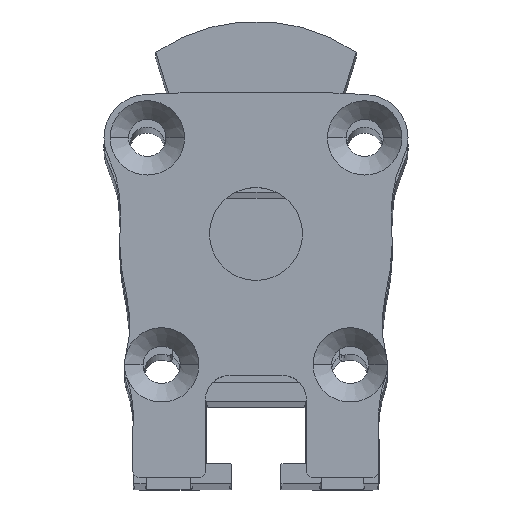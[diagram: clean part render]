
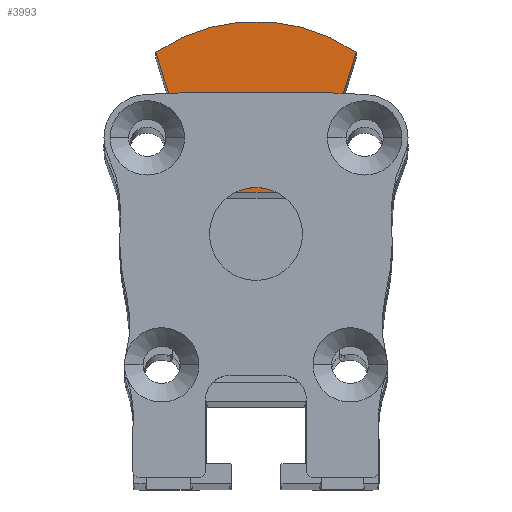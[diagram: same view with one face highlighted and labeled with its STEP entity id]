
A CAD part, top view. The second image highlights one B-rep face of the part: STEP entity #3993.
In plain terms, the highlighted planar face has unit normal (0, 0, 1).
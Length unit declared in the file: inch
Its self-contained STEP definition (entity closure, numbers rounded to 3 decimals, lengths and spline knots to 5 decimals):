
#3993=ADVANCED_FACE('',(#7809),#7810,.T.);
#4001=EDGE_CURVE('',#7813,#7819,#7822,.T.);
#4007=EDGE_CURVE('',#7827,#7819,#7830,.F.);
#4029=EDGE_CURVE('',#7861,#7862,#7863,.F.);
#4035=EDGE_CURVE('',#7869,#7870,#7871,.F.);
#4041=EDGE_CURVE('',#7870,#7861,#7877,.F.);
#4043=EDGE_CURVE('',#7869,#7879,#7880,.F.);
#4047=EDGE_CURVE('',#7813,#7862,#7884,.F.);
#4049=EDGE_CURVE('',#7886,#7887,#7888,.F.);
#4055=EDGE_CURVE('',#7827,#7894,#7895,.F.);
#4059=EDGE_CURVE('',#7894,#7886,#7899,.F.);
#4063=EDGE_CURVE('',#7901,#7887,#7904,.F.);
#4065=EDGE_CURVE('',#7879,#7901,#7906,.F.);
#7809=FACE_OUTER_BOUND('',#17825,.T.);
#7810=PLANE('',#17826);
#7813=VERTEX_POINT('',#17830);
#7819=VERTEX_POINT('',#17840);
#7822=LINE('',#17845,#17846);
#7827=VERTEX_POINT('',#17854);
#7830=LINE('',#17859,#17860);
#7861=VERTEX_POINT('',#17911);
#7862=VERTEX_POINT('',#17912);
#7863=LINE('',#17913,#17914);
#7869=VERTEX_POINT('',#17925);
#7870=VERTEX_POINT('',#17926);
#7871=LINE('',#17927,#17928);
#7877=LINE('',#17939,#17940);
#7879=VERTEX_POINT('',#17943);
#7880=LINE('',#17944,#17945);
#7884=LINE('',#17952,#17953);
#7886=VERTEX_POINT('',#17956);
#7887=VERTEX_POINT('',#17957);
#7888=LINE('',#17958,#17959);
#7894=VERTEX_POINT('',#17970);
#7895=LINE('',#17971,#17972);
#7899=LINE('',#17979,#17980);
#7901=VERTEX_POINT('',#17983);
#7904=LINE('',#17988,#17989);
#7906=CIRCLE('',#17992,0.56299);
#17825=EDGE_LOOP('',(#23534,#23535,#23536,#23537,#23538,#23539,#23540,#23541,#23542,#23543,#23544,#23545));
#17826=AXIS2_PLACEMENT_3D('',#23546,#23547,#23548);
#17830=CARTESIAN_POINT('',(-0.17932,0.15296,-0.32239));
#17840=CARTESIAN_POINT('',(0.17932,0.15296,-0.32239));
#17845=CARTESIAN_POINT('',(0.,0.15296,-0.32239));
#17846=VECTOR('',#23552,1.0);
#17854=CARTESIAN_POINT('',(0.26301,0.4208,-0.32239));
#17859=CARTESIAN_POINT('',(0.19145,0.19179,-0.32239));
#17860=VECTOR('',#23555,1.0);
#17911=CARTESIAN_POINT('',(-0.21005,0.4208,-0.32239));
#17912=CARTESIAN_POINT('',(-0.26301,0.4208,-0.32239));
#17913=CARTESIAN_POINT('',(-0.12298,0.4208,-0.32239));
#17914=VECTOR('',#23568,1.0);
#17925=CARTESIAN_POINT('',(-0.27532,0.46017,-0.32239));
#17926=CARTESIAN_POINT('',(-0.21005,0.46017,-0.32239));
#17927=CARTESIAN_POINT('',(-0.12298,0.46017,-0.32239));
#17928=VECTOR('',#23571,1.0);
#17939=CARTESIAN_POINT('',(-0.21005,0.35333,-0.32239));
#17940=VECTOR('',#23574,1.0);
#17943=CARTESIAN_POINT('',(-0.31832,0.59777,-0.32239));
#17944=CARTESIAN_POINT('',(-0.19145,0.19179,-0.32239));
#17945=VECTOR('',#23575,1.0);
#17952=CARTESIAN_POINT('',(-0.19145,0.19179,-0.32239));
#17953=VECTOR('',#23577,1.0);
#17956=CARTESIAN_POINT('',(0.20856,0.46017,-0.32239));
#17957=CARTESIAN_POINT('',(0.27532,0.46017,-0.32239));
#17958=CARTESIAN_POINT('',(0.12223,0.46017,-0.32239));
#17959=VECTOR('',#23578,1.0);
#17970=CARTESIAN_POINT('',(0.20856,0.4208,-0.32239));
#17971=CARTESIAN_POINT('',(0.12223,0.4208,-0.32239));
#17972=VECTOR('',#23581,1.0);
#17979=CARTESIAN_POINT('',(0.20856,0.35333,-0.32239));
#17980=VECTOR('',#23583,1.0);
#17983=CARTESIAN_POINT('',(0.31832,0.59777,-0.32239));
#17988=CARTESIAN_POINT('',(0.19145,0.19179,-0.32239));
#17989=VECTOR('',#23585,1.0);
#17992=AXIS2_PLACEMENT_3D('',#23586,#23587,#23588);
#23534=ORIENTED_EDGE('',*,*,#4001,.T.);
#23535=ORIENTED_EDGE('',*,*,#4007,.F.);
#23536=ORIENTED_EDGE('',*,*,#4055,.T.);
#23537=ORIENTED_EDGE('',*,*,#4059,.T.);
#23538=ORIENTED_EDGE('',*,*,#4049,.T.);
#23539=ORIENTED_EDGE('',*,*,#4063,.F.);
#23540=ORIENTED_EDGE('',*,*,#4065,.F.);
#23541=ORIENTED_EDGE('',*,*,#4043,.F.);
#23542=ORIENTED_EDGE('',*,*,#4035,.T.);
#23543=ORIENTED_EDGE('',*,*,#4041,.T.);
#23544=ORIENTED_EDGE('',*,*,#4029,.T.);
#23545=ORIENTED_EDGE('',*,*,#4047,.F.);
#23546=CARTESIAN_POINT('',(0.,0.26619,-0.32239));
#23547=DIRECTION('',(0.,0.,1.0));
#23548=DIRECTION('',(1.0,0.0,0.));
#23552=DIRECTION('',(1.0,0.0,0.));
#23555=DIRECTION('',(0.298,0.954,0.));
#23568=DIRECTION('',(1.0,0.0,0.));
#23571=DIRECTION('',(-1.0,0.0,0.));
#23574=DIRECTION('',(-0.0,1.0,0.));
#23575=DIRECTION('',(0.298,-0.954,0.));
#23577=DIRECTION('',(0.298,-0.954,0.));
#23578=DIRECTION('',(-1.0,0.0,0.));
#23581=DIRECTION('',(1.0,0.0,0.));
#23583=DIRECTION('',(-0.0,-1.0,0.));
#23585=DIRECTION('',(0.298,0.954,0.));
#23586=CARTESIAN_POINT('',(0.,0.13341,-0.32239));
#23587=DIRECTION('',(0.,0.,1.0));
#23588=DIRECTION('',(1.0,0.,0.));
